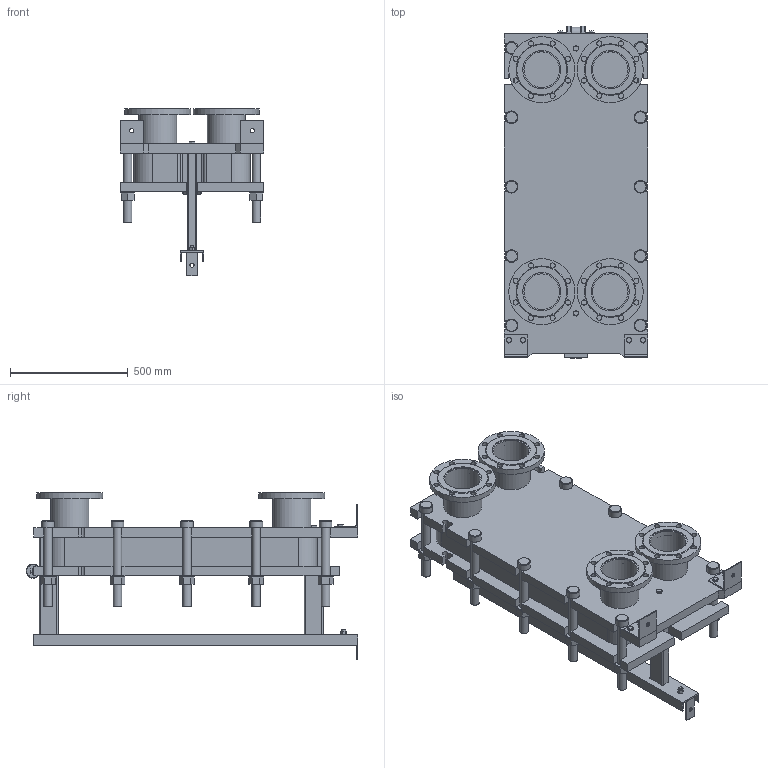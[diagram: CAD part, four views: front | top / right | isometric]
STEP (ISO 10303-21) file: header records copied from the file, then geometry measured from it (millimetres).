
FILE_DESCRIPTION(/* description */ (''),/* implementation_level */ '2;1');
FILE_NAME(/* name */ 'C:\Users\zhuro\Desktop\ENCO\TO\ЭН-041\ЭН-0,5-041-36-1.stp',/* time_stamp */ '2022-06-06T10:51:25+03:00',/* author */ ('zhuro'),/* organization */ (''),/* preprocessor_version */ 'ST-DEVELOPER v18.1',/* originating_system */ 'Autodesk Inventor 2022',/* authorisation */ '');
FILE_SCHEMA (('AUTOMOTIVE_DESIGN { 1 0 10303 214 3 1 1 }'));
Length unit declared in the file: millimetre
Products named in the file (1): ЭН-0,5-041-36-1
Bounding box: 610 x 1406.5 x 710 mm (x, y, z)
Volume: 145830418.2 mm3; surface area: 7613363.6 mm2
Topology: 52 solids, 52 shells, 711 faces, 1696 edges, 1094 vertices
Faces by surface type: plane 487, cylinder 177, cone 41, torus 6
Full cylindrical faces by diameter (mm): 8 x4, 10 x2, 16 x8, 18 x3, 22 x32, 36 x24, 50 x1, 54 x10, 60 x12, 151 x4, 161 x8, 280 x4
Entity records: 22667 total; most frequent: CARTESIAN_POINT 5230, DIRECTION 3644, ORIENTED_EDGE 3392, EDGE_CURVE 1696, AXIS2_PLACEMENT_3D 1272, LINE 1100, VECTOR 1100, VERTEX_POINT 1094
